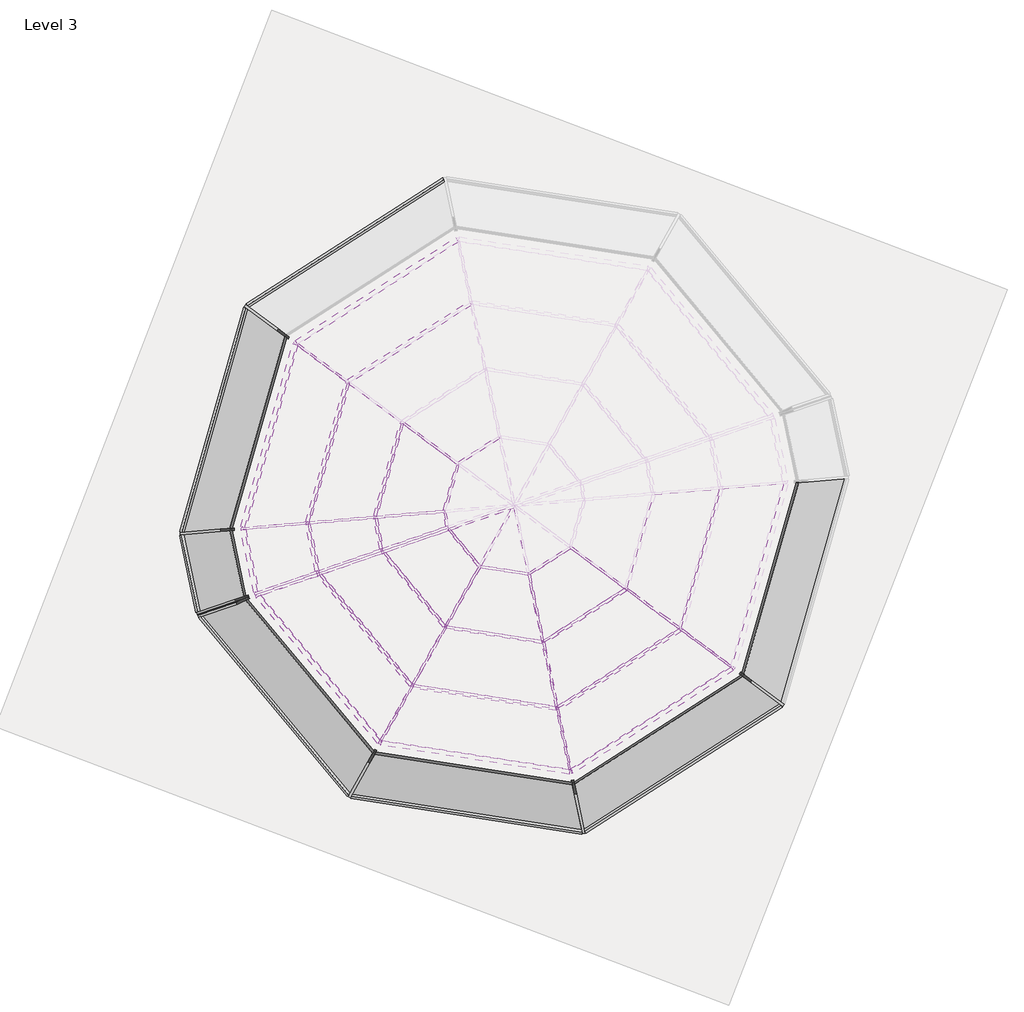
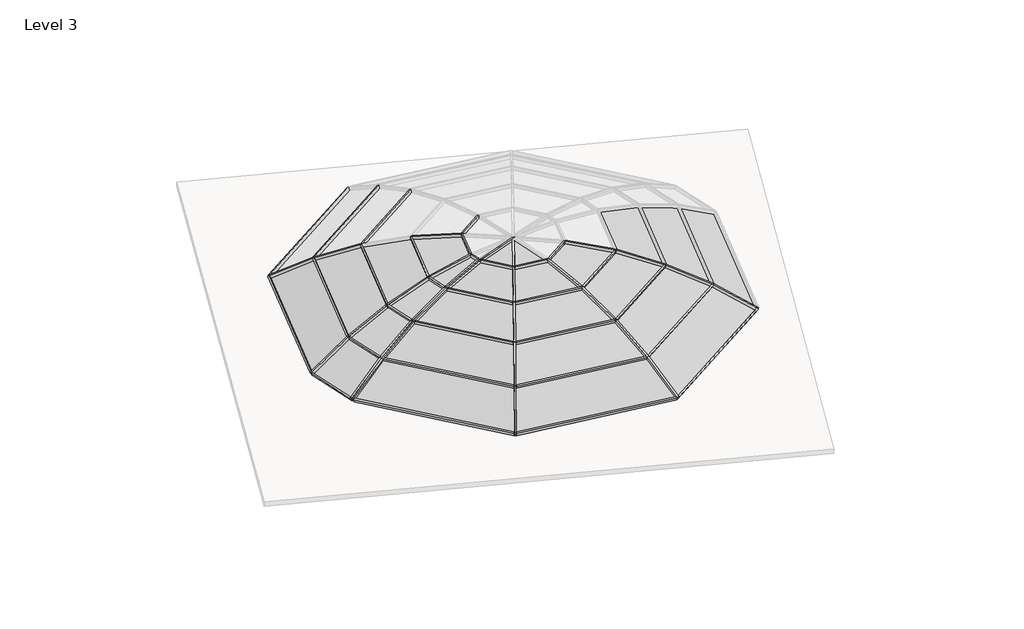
# One storey, part 1 of 2: 57 members, 25 plates.
"""IFC4 building model written with IfcOpenShell, lengths in millimetres."""

from ifc_helpers import new_model, si_unit, origin, place, context, project, spatial, transform, mapped, element, save
from components import rectangular_mullion_50_x_150mm_fa7cbd31, rectangular_mullion_50_x_150mm_524ad4e4, rectangular_mullion_50_x_150mm_5546df2b, rectangular_mullion_50_x_150mm_b59a5eb5, rectangular_mullion_50_x_150mm_e05598f6, rectangular_mullion_50_x_150mm_a9043509, rectangular_mullion_50_x_150mm_2f4e9f07, rectangular_mullion_50_x_150mm_9374ec4e, rectangular_mullion_50_x_150mm_1d4ffcc8, rectangular_mullion_50_x_150mm_7729aa8c, rectangular_mullion_50_x_150mm_591d99be, rectangular_mullion_50_x_150mm_0f1075ed, rectangular_mullion_50_x_150mm_c27df651, rectangular_mullion_50_x_150mm_b8fa2365, rectangular_mullion_50_x_150mm_1a41200d, rectangular_mullion_50_x_150mm_90fb33a8, rectangular_mullion_50_x_150mm_7cf9c824, rectangular_mullion_50_x_150mm_acd3cb19, rectangular_mullion_50_x_150mm_fa5f5fe4, rectangular_mullion_50_x_150mm_29780cc7, rectangular_mullion_50_x_150mm_fc893f09, rectangular_mullion_50_x_150mm_32bfd31b, rectangular_mullion_50_x_150mm_eddbecf3, rectangular_mullion_50_x_150mm_9946c6b2, rectangular_mullion_50_x_150mm_2f072838, rectangular_mullion_50_x_150mm_7f1d5474, rectangular_mullion_50_x_150mm_eba0d472, system_panel_glazed_d30a026a, system_panel_glazed_d2b78630, system_panel_glazed_ac238529, system_panel_glazed_37e80246, system_panel_glazed_b58a9e73, system_panel_glazed_1f3aabbd, system_panel_glazed_1b0430f5, system_panel_glazed_21f1f6a8, system_panel_glazed_6bfca4de, system_panel_glazed_ad1a7a07, system_panel_glazed_1b021a4a, system_panel_glazed_64c42520, system_panel_glazed_b4e5deec, system_panel_glazed_fcd4964b

model = new_model("IFC4")

# Units and contexts
model_context = context("Model", 3, world=origin())
ifc_project = project(units=[si_unit("LENGTHUNIT", "METRE", prefix="MILLI")], contexts=[model_context])

# Site, building, storey
site = spatial("IfcSite", under=ifc_project)
building = spatial("IfcBuilding", under=site)
storey = spatial("IfcBuildingStorey", under=building, Name="Level 3", Elevation=8400.0)

# Members
placement = place(None, origin())
rectangular_mullion_50_x_150mm_shape = rectangular_mullion_50_x_150mm_fa7cbd31(model_context)
element("IfcMember", 1, ObjectType="Rectangular Mullion : 50 x 150mm", at=placement, inside=storey, context=model_context, shape_type="MappedRepresentation", body=[
    mapped(rectangular_mullion_50_x_150mm_shape, transform((466199.4216626, -16734.4782175, 10977.2696344), x_axis=(-0.766484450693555, -0.6381016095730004, -0.07299262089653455), y_axis=(0.05609734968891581, 0.04670128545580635, -0.9973324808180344), z_axis=(0.6398083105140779, -0.7685345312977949, 0.0))),
])
rectangular_mullion_50_x_150mm_2_shape = rectangular_mullion_50_x_150mm_524ad4e4(model_context)
element("IfcMember", 2, ObjectType="Rectangular Mullion : 50 x 150mm", at=placement, inside=storey, context=model_context, shape_type="MappedRepresentation", body=[
    mapped(rectangular_mullion_50_x_150mm_2_shape, transform((467239.7215398, -16911.8241895, 10977.2696344), x_axis=(-0.15216599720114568, -0.985655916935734, -0.07299262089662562), y_axis=(0.011136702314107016, 0.07213803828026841, -0.9973324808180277), z_axis=(0.9882922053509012, -0.15257298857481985, 0.0))),
])
element("IfcMember", 3, ObjectType="Rectangular Mullion : 50 x 150mm", at=placement, inside=storey, context=model_context, shape_type="MappedRepresentation", body=[
    mapped(rectangular_mullion_50_x_150mm_2_shape, transform((468136.8932115, -16356.1638437, 10977.2696344), x_axis=(0.5383647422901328, -0.8395448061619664, -0.07299262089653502), y_axis=(-0.0394017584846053, 0.06144448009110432, -0.9973324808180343), z_axis=(0.8417902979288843, 0.5398046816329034, 0.0))),
])
element("IfcMember", 4, ObjectType="Rectangular Mullion : 50 x 150mm", at=placement, inside=storey, context=model_context, shape_type="MappedRepresentation", body=[
    mapped(rectangular_mullion_50_x_150mm_2_shape, transform((465771.0082631, -14540.4331851, 10977.2696344), x_axis=(-0.5383647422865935, 0.8395448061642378, -0.07299262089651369), y_axis=(0.03940175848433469, -0.06144448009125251, -0.9973324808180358), z_axis=(-0.8417902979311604, -0.5398046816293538, 0.0))),
])
element("IfcMember", 5, ObjectType="Rectangular Mullion : 50 x 150mm", at=placement, inside=storey, context=model_context, shape_type="MappedRepresentation", body=[
    mapped(rectangular_mullion_50_x_150mm_2_shape, transform((465466.3129122, -15550.7975607, 10977.2696344), x_axis=(-0.9592556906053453, 0.27294797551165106, -0.07299262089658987), y_axis=(0.07020586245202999, -0.01997647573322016, -0.9973324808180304), z_axis=(-0.2736780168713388, -0.961821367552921, 0.0))),
])
rectangular_mullion_50_x_150mm_3_shape = rectangular_mullion_50_x_150mm_5546df2b(model_context)
element("IfcMember", 6, ObjectType="Rectangular Mullion : 50 x 150mm", at=placement, inside=storey, context=model_context, shape_type="MappedRepresentation", body=[
    mapped(rectangular_mullion_50_x_150mm_3_shape, transform((465525.9488636, -15889.0220407, 10977.2696344), x_axis=(-0.9753948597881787, -0.2063862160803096, -0.0775215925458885), y_axis=(0.07584239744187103, 0.016047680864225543, -0.9969906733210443), z_axis=(0.20700917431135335, -0.978339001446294, 0.0))),
])
rectangular_mullion_50_x_150mm_4_shape = rectangular_mullion_50_x_150mm_b59a5eb5(model_context)
element("IfcMember", 7, ObjectType="Rectangular Mullion : 50 x 150mm", at=placement, inside=storey, context=model_context, shape_type="MappedRepresentation", body=[
    mapped(rectangular_mullion_50_x_150mm_4_shape, transform((465468.1939486, -18026.9573175, 10765.6005375), x_axis=(-0.754448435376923, -0.6280815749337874, -0.19058093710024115), y_axis=(0.1464680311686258, 0.12193526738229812, -0.981671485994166), z_axis=(0.639808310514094, -0.7685345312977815, 0.0))),
])
rectangular_mullion_50_x_150mm_5_shape = rectangular_mullion_50_x_150mm_e05598f6(model_context)
element("IfcMember", 8, ObjectType="Rectangular Mullion : 50 x 150mm", at=placement, inside=storey, context=model_context, shape_type="MappedRepresentation", body=[
    mapped(rectangular_mullion_50_x_150mm_5_shape, transform((467547.1281558, -18364.6481176, 10765.6005375), x_axis=(-0.14977655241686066, -0.9701782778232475, -0.19058093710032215), y_axis=(0.029077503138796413, 0.18834965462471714, -0.9816714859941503), z_axis=(0.9882922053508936, -0.15257298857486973, 0.0))),
])
element("IfcMember", 9, ObjectType="Rectangular Mullion : 50 x 150mm", at=placement, inside=storey, context=model_context, shape_type="MappedRepresentation", body=[
    mapped(rectangular_mullion_50_x_150mm_5_shape, transform((469328.9696623, -17241.6862481, 10765.6005375), x_axis=(0.5299108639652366, -0.8263615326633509, -0.19058093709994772), y_axis=(-0.10287648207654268, 0.16042918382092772, -0.9816714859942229), z_axis=(0.8417902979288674, 0.5398046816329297, 0.0))),
])
element("IfcMember", 10, ObjectType="Rectangular Mullion : 50 x 150mm", at=placement, inside=storey, context=model_context, shape_type="MappedRepresentation", body=[
    mapped(rectangular_mullion_50_x_150mm_5_shape, transform((463986.6176962, -15676.0902636, 10765.6005375), x_axis=(-0.9441926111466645, 0.2686619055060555, -0.19058093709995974), y_axis=(0.1833048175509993, -0.052157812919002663, -0.9816714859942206), z_axis=(-0.27367801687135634, -0.961821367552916, 0.0))),
])
rectangular_mullion_50_x_150mm_6_shape = rectangular_mullion_50_x_150mm_a9043509(model_context)
element("IfcMember", 11, ObjectType="Rectangular Mullion : 50 x 150mm", at=placement, inside=storey, context=model_context, shape_type="MappedRepresentation", body=[
    mapped(rectangular_mullion_50_x_150mm_6_shape, transform((464122.3219622, -16373.8186115, 10765.6005375), x_axis=(-0.9582144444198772, -0.20275096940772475, -0.20178484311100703), y_axis=(0.1974139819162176, 0.04177131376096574, -0.9794298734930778), z_axis=(0.20700917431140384, -0.9783390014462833, 0.0))),
])
rectangular_mullion_50_x_150mm_7_shape = rectangular_mullion_50_x_150mm_2f4e9f07(model_context)
element("IfcMember", 12, ObjectType="Rectangular Mullion : 50 x 150mm", at=placement, inside=storey, context=model_context, shape_type="MappedRepresentation", body=[
    mapped(rectangular_mullion_50_x_150mm_7_shape, transform((464755.9453803, -19285.8898922, 10368.3717003), x_axis=(-0.731639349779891, -0.6090929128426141, -0.3061203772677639), y_axis=(0.23526408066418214, 0.19585836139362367, -0.9519928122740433), z_axis=(0.6398083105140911, -0.768534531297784, 0.0))),
])
rectangular_mullion_50_x_150mm_8_shape = rectangular_mullion_50_x_150mm_9374ec4e(model_context)
element("IfcMember", 13, ObjectType="Rectangular Mullion : 50 x 150mm", at=placement, inside=storey, context=model_context, shape_type="MappedRepresentation", body=[
    mapped(rectangular_mullion_50_x_150mm_8_shape, transform((467846.5559784, -19779.7637418, 10368.3717003), x_axis=(-0.14524838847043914, -0.9408470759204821, -0.3061203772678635), y_axis=(0.046705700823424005, 0.30253638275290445, -0.9519928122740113), z_axis=(0.9882922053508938, -0.15257298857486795, 0.0))),
])
element("IfcMember", 14, ObjectType="Rectangular Mullion : 50 x 150mm", at=placement, inside=storey, context=model_context, shape_type="MappedRepresentation", body=[
    mapped(rectangular_mullion_50_x_150mm_8_shape, transform((470490.1055566, -18104.2247609, 10368.3717003), x_axis=(0.5138901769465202, -0.8013783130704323, -0.30612037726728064), y_axis=(-0.16524521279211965, 0.2576891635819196, -0.9519928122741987), z_axis=(0.8417902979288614, 0.5398046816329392, 0.0))),
])
element("IfcMember", 15, ObjectType="Rectangular Mullion : 50 x 150mm", at=placement, inside=storey, context=model_context, shape_type="MappedRepresentation", body=[
    mapped(rectangular_mullion_50_x_150mm_8_shape, transform((463417.7959181, -12792.3722679, 10368.3717003), x_axis=(-0.5138901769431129, 0.8013783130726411, -0.3061203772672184), y_axis=(0.16524521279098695, -0.25768916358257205, -0.9519928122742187), z_axis=(-0.8417902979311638, -0.5398046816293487, 0.0))),
])
element("IfcMember", 16, ObjectType="Rectangular Mullion : 50 x 150mm", at=placement, inside=storey, context=model_context, shape_type="MappedRepresentation", body=[
    mapped(rectangular_mullion_50_x_150mm_8_shape, transform((462545.3282332, -15798.130972, 10368.3717003), x_axis=(-0.9156470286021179, 0.26053950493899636, -0.30612037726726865), y_axis=(0.2944331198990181, -0.08377841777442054, -0.9519928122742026), z_axis=(-0.27367801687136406, -0.9618213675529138, 0.0))),
])
rectangular_mullion_50_x_150mm_9_shape = rectangular_mullion_50_x_150mm_1d4ffcc8(model_context)
element("IfcMember", 17, ObjectType="Rectangular Mullion : 50 x 150mm", at=placement, inside=storey, context=model_context, shape_type="MappedRepresentation", body=[
    mapped(rectangular_mullion_50_x_150mm_9_shape, transform((462755.126447, -16846.032201, 10368.3717003), x_axis=(-0.9259277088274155, -0.19591933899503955, -0.32291406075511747), y_axis=(0.31591941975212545, 0.06684617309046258, -0.9464282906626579), z_axis=(0.2070091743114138, -0.9783390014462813, 0.0))),
])
rectangular_mullion_50_x_150mm_10_shape = rectangular_mullion_50_x_150mm_7729aa8c(model_context)
element("IfcMember", 18, ObjectType="Rectangular Mullion : 50 x 150mm", at=placement, inside=storey, context=model_context, shape_type="MappedRepresentation", body=[
    mapped(rectangular_mullion_50_x_150mm_10_shape, transform((464074.0459753, -20491.1789047, 9791.9243064), x_axis=(-0.698047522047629, -0.581127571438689, -0.4183543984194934), y_axis=(0.3215198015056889, 0.26766662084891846, -0.9082838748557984), z_axis=(0.6398083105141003, -0.7685345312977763, 0.0))),
])
rectangular_mullion_50_x_150mm_11_shape = rectangular_mullion_50_x_150mm_591d99be(model_context)
element("IfcMember", 19, ObjectType="Rectangular Mullion : 50 x 150mm", at=placement, inside=storey, context=model_context, shape_type="MappedRepresentation", body=[
    mapped(rectangular_mullion_50_x_150mm_11_shape, transform((468133.2250755, -21134.5807888, 9791.9243064), x_axis=(-0.13857958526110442, -0.8976498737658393, -0.41835439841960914), y_axis=(0.06382958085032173, 0.4134563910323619, -0.9082838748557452), z_axis=(0.9882922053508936, -0.1525729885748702, 0.0))),
])
element("IfcMember", 20, ObjectType="Rectangular Mullion : 50 x 150mm", at=placement, inside=storey, context=model_context, shape_type="MappedRepresentation", body=[
    mapped(rectangular_mullion_50_x_150mm_11_shape, transform((471601.7650397, -18930.0102026, 9791.9243064), x_axis=(0.4902958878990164, -0.7645845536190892, -0.41835439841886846), y_axis=(-0.22582966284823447, 0.35216667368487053, -0.9082838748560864), z_axis=(0.8417902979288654, 0.5398046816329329, 0.0))),
])
element("IfcMember", 21, ObjectType="Rectangular Mullion : 50 x 150mm", at=placement, inside=storey, context=model_context, shape_type="MappedRepresentation", body=[
    mapped(rectangular_mullion_50_x_150mm_11_shape, transform((462306.136435, -11966.5868262, 9791.9243064), x_axis=(-0.49029588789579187, 0.7645845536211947, -0.41835439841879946), y_axis=(0.2258296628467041, -0.3521666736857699, -0.9082838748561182), z_axis=(-0.8417902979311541, -0.5398046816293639, 0.0))),
])
element("IfcMember", 22, ObjectType="Rectangular Mullion : 50 x 150mm", at=placement, inside=storey, context=model_context, shape_type="MappedRepresentation", body=[
    mapped(rectangular_mullion_50_x_150mm_11_shape, transform((461165.4526239, -15914.9714827, 9791.9243064), x_axis=(-0.8736068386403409, 0.24857732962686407, -0.41835439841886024), y_axis=(0.4023821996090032, -0.1144944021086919, -0.9082838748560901), z_axis=(-0.2736780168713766, -0.9618213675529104, 0.0))),
])
rectangular_mullion_50_x_150mm_12_shape = rectangular_mullion_50_x_150mm_0f1075ed(model_context)
element("IfcMember", 23, ObjectType="Rectangular Mullion : 50 x 150mm", at=placement, inside=storey, context=model_context, shape_type="MappedRepresentation", body=[
    mapped(rectangular_mullion_50_x_150mm_12_shape, transform((461446.1876163, -17298.1246024, 9791.9243064), x_axis=(-0.8789890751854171, -0.1859874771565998, -0.43907500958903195), y_axis=(0.4295642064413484, 0.0908925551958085, -0.8984504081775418), z_axis=(0.2070091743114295, -0.9783390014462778, 0.0))),
])
rectangular_mullion_50_x_150mm_13_shape = rectangular_mullion_50_x_150mm_c27df651(model_context)
element("IfcMember", 24, ObjectType="Rectangular Mullion : 50 x 150mm", at=placement, inside=storey, context=model_context, shape_type="MappedRepresentation", body=[
    mapped(rectangular_mullion_50_x_150mm_13_shape, transform((463433.3812711, -21623.5836597, 9045.4605044), x_axis=(-0.6537057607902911, -0.5442128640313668, -0.5258337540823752), y_axis=(0.4041213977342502, 0.3364328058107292, -0.8505873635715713), z_axis=(0.6398083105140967, -0.7685345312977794, 0.0))),
])
rectangular_mullion_50_x_150mm_14_shape = rectangular_mullion_50_x_150mm_b8fa2365(model_context)
element("IfcMember", 25, ObjectType="Rectangular Mullion : 50 x 150mm", at=placement, inside=storey, context=model_context, shape_type="MappedRepresentation", body=[
    mapped(rectangular_mullion_50_x_150mm_14_shape, transform((468402.5591898, -22407.4715646, 9045.4605044), x_axis=(-0.12977665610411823, -0.8406288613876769, -0.5258337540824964), y_axis=(0.08022802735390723, 0.5196774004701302, -0.8505873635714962), z_axis=(0.9882922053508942, -0.1525729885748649, 0.0))),
])
element("IfcMember", 26, ObjectType="Rectangular Mullion : 50 x 150mm", at=placement, inside=storey, context=model_context, shape_type="MappedRepresentation", body=[
    mapped(rectangular_mullion_50_x_150mm_14_shape, transform((472646.2020764, -19705.8601034, 9045.4605044), x_axis=(0.45915104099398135, -0.7160161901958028, -0.5258337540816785), y_axis=(-0.2838475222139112, 0.4426417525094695, -0.8505873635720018), z_axis=(0.8417902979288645, 0.5398046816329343, 0.0))),
])
element("IfcMember", 27, ObjectType="Rectangular Mullion : 50 x 150mm", at=placement, inside=storey, context=model_context, shape_type="MappedRepresentation", body=[
    mapped(rectangular_mullion_50_x_150mm_14_shape, transform((461261.6993982, -11190.7369254, 9045.4605044), x_axis=(-0.45915104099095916, 0.7160161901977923, -0.5258337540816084), y_axis=(0.28384752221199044, -0.44264175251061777, -0.8505873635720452), z_axis=(-0.8417902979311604, -0.5398046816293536, 0.0))),
])
element("IfcMember", 28, ObjectType="Rectangular Mullion : 50 x 150mm", at=placement, inside=storey, context=model_context, shape_type="MappedRepresentation", body=[
    mapped(rectangular_mullion_50_x_150mm_14_shape, transform((459869.0185859, -16024.7466059, 9045.4605044), x_axis=(-0.818113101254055, 0.23278706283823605, -0.5258337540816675), y_axis=(0.5057581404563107, -0.14390913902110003, -0.8505873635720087), z_axis=(-0.27367801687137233, -0.9618213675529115, 0.0))),
])
rectangular_mullion_50_x_150mm_15_shape = rectangular_mullion_50_x_150mm_1a41200d(model_context)
element("IfcMember", 29, ObjectType="Rectangular Mullion : 50 x 150mm", at=placement, inside=storey, context=model_context, shape_type="MappedRepresentation", body=[
    mapped(rectangular_mullion_50_x_150mm_15_shape, transform((460216.4007845, -17722.8788147, 9045.4605044), x_axis=(-0.818066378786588, -0.17309669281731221, -0.5484568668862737), y_axis=(0.5365767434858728, 0.11353560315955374, -0.8361788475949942), z_axis=(0.20700917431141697, -0.9783390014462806, 0.0))),
])
rectangular_mullion_50_x_150mm_16_shape = rectangular_mullion_50_x_150mm_90fb33a8(model_context)
element("IfcMember", 30, ObjectType="Rectangular Mullion : 50 x 150mm", at=placement, inside=storey, context=model_context, shape_type="MappedRepresentation", body=[
    mapped(rectangular_mullion_50_x_150mm_16_shape, transform((465536.2993223, -15937.9389907, 10977.2696344), x_axis=(-0.3265418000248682, 0.9451653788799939, 0.005732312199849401), y_axis=(0.012552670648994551, 0.010400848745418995, -0.9998671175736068), z_axis=(-0.9450994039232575, -0.3264264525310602, -0.015260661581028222))),
])
rectangular_mullion_50_x_150mm_17_shape = rectangular_mullion_50_x_150mm_7cf9c824(model_context)
element("IfcMember", 31, ObjectType="Rectangular Mullion : 50 x 150mm", at=placement, inside=storey, context=model_context, shape_type="MappedRepresentation", body=[
    mapped(rectangular_mullion_50_x_150mm_17_shape, transform((464132.6724209, -16422.7355615, 10765.6005375), x_axis=(-0.33311095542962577, 0.9414093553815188, 0.05277799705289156), y_axis=(0.11578711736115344, 0.09639327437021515, -0.9885856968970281), z_axis=(-0.9357512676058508, -0.32319771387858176, -0.1411127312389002))),
])
rectangular_mullion_50_x_150mm_18_shape = rectangular_mullion_50_x_150mm_acd3cb19(model_context)
element("IfcMember", 32, ObjectType="Rectangular Mullion : 50 x 150mm", at=placement, inside=storey, context=model_context, shape_type="MappedRepresentation", body=[
    mapped(rectangular_mullion_50_x_150mm_18_shape, transform((462765.4769057, -16894.949151, 10368.3717003), x_axis=(-0.3497916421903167, 0.9318822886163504, 0.09613119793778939), y_axis=(0.21651737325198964, 0.18025164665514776, -0.9594944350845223), z_axis=(-0.9114636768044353, -0.314809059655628, -0.26481922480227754))),
])
rectangular_mullion_50_x_150mm_19_shape = rectangular_mullion_50_x_150mm_fa5f5fe4(model_context)
element("IfcMember", 33, ObjectType="Rectangular Mullion : 50 x 150mm", at=placement, inside=storey, context=model_context, shape_type="MappedRepresentation", body=[
    mapped(rectangular_mullion_50_x_150mm_19_shape, transform((461456.538075, -17347.0415524, 9791.9243064), x_axis=(-0.3753307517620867, 0.9173237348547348, 0.13283069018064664), y_axis=(0.3124914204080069, 0.2601504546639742, -0.9136032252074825), z_axis=(-0.8726258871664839, -0.30139493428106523, -0.384298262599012))),
])
rectangular_mullion_50_x_150mm_20_shape = rectangular_mullion_50_x_150mm_29780cc7(model_context)
element("IfcMember", 34, ObjectType="Rectangular Mullion : 50 x 150mm", at=placement, inside=storey, context=model_context, shape_type="MappedRepresentation", body=[
    mapped(rectangular_mullion_50_x_150mm_20_shape, transform((460226.7512433, -17771.7957647, 9045.4605044), x_axis=(-0.4078582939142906, 0.8988303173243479, 0.1604857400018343), y_axis=(0.40185153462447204, 0.3345431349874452, -0.8524061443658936), z_axis=(-0.8198578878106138, -0.2831694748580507, -0.497642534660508))),
])
rectangular_mullion_50_x_150mm_21_shape = rectangular_mullion_50_x_150mm_fc893f09(model_context)
element("IfcMember", 35, ObjectType="Rectangular Mullion : 50 x 150mm", at=placement, inside=storey, context=model_context, shape_type="MappedRepresentation", body=[
    mapped(rectangular_mullion_50_x_150mm_21_shape, transform((465536.2993223, -15937.9389907, 10977.2696344), x_axis=(0.3240675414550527, -0.9458736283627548, 0.017415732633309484), y_axis=(0.1391035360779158, 0.02943326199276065, -0.9898403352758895), z_axis=(0.9357512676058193, 0.3231977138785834, 0.14111273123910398))),
])
rectangular_mullion_50_x_150mm_22_shape = rectangular_mullion_50_x_150mm_32bfd31b(model_context)
element("IfcMember", 36, ObjectType="Rectangular Mullion : 50 x 150mm", at=placement, inside=storey, context=model_context, shape_type="MappedRepresentation", body=[
    mapped(rectangular_mullion_50_x_150mm_22_shape, transform((464132.6724209, -16422.7355615, 10765.6005375), x_axis=(0.31802625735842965, -0.9475476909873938, 0.03182252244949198), y_axis=(0.26094686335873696, 0.055214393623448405, -0.9637728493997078), z_axis=(0.9114636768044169, 0.3148090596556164, 0.2648192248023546))),
])
rectangular_mullion_50_x_150mm_23_shape = rectangular_mullion_50_x_150mm_eddbecf3(model_context)
element("IfcMember", 37, ObjectType="Rectangular Mullion : 50 x 150mm", at=placement, inside=storey, context=model_context, shape_type="MappedRepresentation", body=[
    mapped(rectangular_mullion_50_x_150mm_23_shape, transform((462765.4769057, -16894.949151, 10368.3717003), x_axis=(0.3087052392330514, -0.9501308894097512, 0.04418561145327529), y_axis=(0.37845096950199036, 0.08007737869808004, -0.9221510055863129), z_axis=(0.8726258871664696, 0.30139493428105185, 0.38429826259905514))),
])
rectangular_mullion_50_x_150mm_24_shape = rectangular_mullion_50_x_150mm_9946c6b2(model_context)
element("IfcMember", 38, ObjectType="Rectangular Mullion : 50 x 150mm", at=placement, inside=storey, context=model_context, shape_type="MappedRepresentation", body=[
    mapped(rectangular_mullion_50_x_150mm_24_shape, transform((461456.538075, -17347.0415524, 9791.9243064), x_axis=(0.29670793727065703, -0.9534563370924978, 0.05371604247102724), y_axis=(0.48969117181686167, 0.10361496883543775, -0.8657173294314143), z_axis=(0.8198578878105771, 0.2831694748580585, 0.4976425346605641))),
])
rectangular_mullion_50_x_150mm_25_shape = rectangular_mullion_50_x_150mm_2f072838(model_context)
element("IfcMember", 39, ObjectType="Rectangular Mullion : 50 x 150mm", at=placement, inside=storey, context=model_context, shape_type="MappedRepresentation", body=[
    mapped(rectangular_mullion_50_x_150mm_25_shape, transform((466215.4168703, -16753.6915808, 10977.2696344), x_axis=(0.8703619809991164, -0.492412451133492, 0.0), y_axis=(0.06948566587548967, 0.12281915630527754, -0.9899935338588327), z_axis=(0.4874851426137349, 0.8616527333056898, 0.14111273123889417))),
])
element("IfcMember", 40, ObjectType="Rectangular Mullion : 50 x 150mm", at=placement, inside=storey, context=model_context, shape_type="MappedRepresentation", body=[
    mapped(rectangular_mullion_50_x_150mm_25_shape, transform((467264.4288449, -16915.6385142, 10977.2696344), x_axis=(0.9783390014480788, 0.20700917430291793, 0.0), y_axis=(-0.029211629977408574, 0.13805608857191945, -0.9899935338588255), z_axis=(-0.20493774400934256, 0.9685492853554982, 0.1411127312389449))),
])
element("IfcMember", 41, ObjectType="Rectangular Mullion : 50 x 150mm", at=placement, inside=storey, context=model_context, shape_type="MappedRepresentation", body=[
    mapped(rectangular_mullion_50_x_150mm_25_shape, transform((468157.937969, -16342.6687266, 10977.2696344), x_axis=(0.5963152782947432, 0.8027503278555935, 0.0), y_axis=(-0.1132782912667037, 0.0841476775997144, -0.9899935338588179), z_axis=(-0.7947176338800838, 0.5903482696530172, 0.14111273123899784))),
])
element("IfcMember", 42, ObjectType="Rectangular Mullion : 50 x 150mm", at=placement, inside=storey, context=model_context, shape_type="MappedRepresentation", body=[
    mapped(rectangular_mullion_50_x_150mm_25_shape, transform((465749.9635057, -14553.9283021, 10977.2696344), x_axis=(-0.5963152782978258, -0.8027503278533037, 0.0), y_axis=(0.11327829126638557, -0.08414767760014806, -0.9899935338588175), z_axis=(0.794717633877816, -0.5903482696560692, 0.14111273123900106))),
])
element("IfcMember", 43, ObjectType="Rectangular Mullion : 50 x 150mm", at=placement, inside=storey, context=model_context, shape_type="MappedRepresentation", body=[
    mapped(rectangular_mullion_50_x_150mm_25_shape, transform((465459.4709617, -15574.8430949, 10977.2696344), x_axis=(0.08437274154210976, -0.9964342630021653, 0.0), y_axis=(0.14060956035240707, 0.011906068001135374, -0.9899935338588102), z_axis=(0.9864634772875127, 0.08352846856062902, 0.1411127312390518))),
])
rectangular_mullion_50_x_150mm_26_shape = rectangular_mullion_50_x_150mm_7f1d5474(model_context)
element("IfcMember", 44, ObjectType="Rectangular Mullion : 50 x 150mm", at=placement, inside=storey, context=model_context, shape_type="MappedRepresentation", body=[
    mapped(rectangular_mullion_50_x_150mm_26_shape, transform((465484.1891564, -18046.1706807, 10765.6005375), x_axis=(0.8703619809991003, -0.49241245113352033, 0.0), y_axis=(0.13040028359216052, 0.23048858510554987, -0.9642980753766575), z_axis=(0.47483237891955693, 0.839288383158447, 0.2648192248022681))),
])
element("IfcMember", 45, ObjectType="Rectangular Mullion : 50 x 150mm", at=placement, inside=storey, context=model_context, shape_type="MappedRepresentation", body=[
    mapped(rectangular_mullion_50_x_150mm_26_shape, transform((464771.940588, -19305.1032555, 10368.3717003), x_axis=(0.8703619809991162, -0.4924124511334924, 0.0), y_axis=(0.1892332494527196, 0.3344785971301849, -0.9232089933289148), z_axis=(0.45459960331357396, 0.8035260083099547, 0.38429826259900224))),
])
element("IfcMember", 46, ObjectType="Rectangular Mullion : 50 x 150mm", at=placement, inside=storey, context=model_context, shape_type="MappedRepresentation", body=[
    mapped(rectangular_mullion_50_x_150mm_26_shape, transform((467571.835461, -18368.4624423, 10765.6005375), x_axis=(0.9783390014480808, 0.2070091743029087, 0.0), y_axis=(-0.05482000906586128, 0.2590829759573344, -0.9642980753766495), z_axis=(-0.19961854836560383, 0.9434104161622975, 0.26481922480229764))),
])
element("IfcMember", 47, ObjectType="Rectangular Mullion : 50 x 150mm", at=placement, inside=storey, context=model_context, shape_type="MappedRepresentation", body=[
    mapped(rectangular_mullion_50_x_150mm_26_shape, transform((467871.2632835, -19783.5780665, 10368.3717003), x_axis=(0.9783390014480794, 0.2070091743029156, 0.0), y_axis=(-0.0795532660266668, 0.3759739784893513, -0.9232089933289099), z_axis=(-0.1911127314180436, 0.9032113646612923, 0.38429826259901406))),
])
element("IfcMember", 48, ObjectType="Rectangular Mullion : 50 x 150mm", at=placement, inside=storey, context=model_context, shape_type="MappedRepresentation", body=[
    mapped(rectangular_mullion_50_x_150mm_26_shape, transform((469350.0144198, -17228.1911311, 10765.6005375), x_axis=(0.5963152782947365, 0.8027503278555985, 0.0), y_axis=(-0.21258371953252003, 0.15791574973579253, -0.9642980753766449), z_axis=(-0.7740905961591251, 0.5750256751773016, 0.2648192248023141))),
])
element("IfcMember", 49, ObjectType="Rectangular Mullion : 50 x 150mm", at=placement, inside=storey, context=model_context, shape_type="MappedRepresentation", body=[
    mapped(rectangular_mullion_50_x_150mm_26_shape, transform((470511.150314, -18090.7296439, 10368.3717003), x_axis=(0.5963152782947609, 0.8027503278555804, 0.0), y_axis=(-0.3084955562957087, 0.22916292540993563, -0.9232089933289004), z_axis=(-0.7411063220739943, 0.5505236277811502, 0.38429826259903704))),
])
element("IfcMember", 50, ObjectType="Rectangular Mullion : 50 x 150mm", at=placement, inside=storey, context=model_context, shape_type="MappedRepresentation", body=[
    mapped(rectangular_mullion_50_x_150mm_26_shape, transform((463396.7511606, -12805.8673849, 10368.3717003), x_axis=(-0.5963152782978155, -0.8027503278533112, 0.0), y_axis=(0.30849555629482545, -0.22916292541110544, -0.9232089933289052), z_axis=(0.7411063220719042, -0.5505236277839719, 0.3842982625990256))),
])
element("IfcMember", 51, ObjectType="Rectangular Mullion : 50 x 150mm", at=placement, inside=storey, context=model_context, shape_type="MappedRepresentation", body=[
    mapped(rectangular_mullion_50_x_150mm_26_shape, transform((463979.7757458, -15700.1357978, 10765.6005375), x_axis=(0.08437274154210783, -0.9964342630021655, 0.0), y_axis=(0.26387494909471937, 0.022343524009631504, -0.9642980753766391), z_axis=(0.960859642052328, 0.08136047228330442, 0.2648192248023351))),
])
element("IfcMember", 52, ObjectType="Rectangular Mullion : 50 x 150mm", at=placement, inside=storey, context=model_context, shape_type="MappedRepresentation", body=[
    mapped(rectangular_mullion_50_x_150mm_26_shape, transform((462538.4862827, -15822.1765062, 10368.3717003), x_axis=(0.08437274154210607, -0.9964342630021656, 0.0), y_axis=(0.38292795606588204, 0.03242429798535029, -0.9232089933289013), z_axis=(0.919917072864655, 0.07789367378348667, 0.384298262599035))),
])
rectangular_mullion_50_x_150mm_27_shape = rectangular_mullion_50_x_150mm_eba0d472(model_context)
element("IfcMember", 53, ObjectType="Rectangular Mullion : 50 x 150mm", at=placement, inside=storey, context=model_context, shape_type="MappedRepresentation", body=[
    mapped(rectangular_mullion_50_x_150mm_27_shape, transform((464090.0411831, -20510.3922679, 9791.9243064), x_axis=(0.8703619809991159, -0.49241245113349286, 0.0), y_axis=(0.24504538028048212, 0.43312914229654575, -0.8673822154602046), z_axis=(0.42710980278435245, 0.7549365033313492, 0.4976425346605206))),
])
element("IfcMember", 54, ObjectType="Rectangular Mullion : 50 x 150mm", at=placement, inside=storey, context=model_context, shape_type="MappedRepresentation", body=[
    mapped(rectangular_mullion_50_x_150mm_27_shape, transform((468157.9323806, -21138.3951135, 9791.9243064), x_axis=(0.9783390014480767, 0.20700917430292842, 0.0), y_axis=(-0.10301657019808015, 0.48686310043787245, -0.8673822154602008), z_axis=(-0.1795560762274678, 0.8485938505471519, 0.497642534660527))),
])
element("IfcMember", 55, ObjectType="Rectangular Mullion : 50 x 150mm", at=placement, inside=storey, context=model_context, shape_type="MappedRepresentation", body=[
    mapped(rectangular_mullion_50_x_150mm_27_shape, transform((471622.8097971, -18916.5150855, 9791.9243064), x_axis=(0.596315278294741, 0.8027503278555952, 0.0), y_axis=(-0.399482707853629, 0.2967518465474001, -0.8673822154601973), z_axis=(-0.6962913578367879, 0.5172332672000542, 0.49764253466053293))),
])
element("IfcMember", 56, ObjectType="Rectangular Mullion : 50 x 150mm", at=placement, inside=storey, context=model_context, shape_type="MappedRepresentation", body=[
    mapped(rectangular_mullion_50_x_150mm_27_shape, transform((462285.0916775, -11980.0819432, 9791.9243064), x_axis=(-0.5963152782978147, -0.8027503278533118, 0.0), y_axis=(0.3994827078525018, -0.296751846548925, -0.867382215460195), z_axis=(0.6962913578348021, -0.5172332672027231, 0.49764253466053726))),
])
element("IfcMember", 57, ObjectType="Rectangular Mullion : 50 x 150mm", at=placement, inside=storey, context=model_context, shape_type="MappedRepresentation", body=[
    mapped(rectangular_mullion_50_x_150mm_27_shape, transform((461158.6106734, -15939.0170169, 9791.9243064), x_axis=(0.0843727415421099, -0.9964342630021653, 0.0), y_axis=(0.4958680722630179, 0.04198746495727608, -0.8673822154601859), z_axis=(0.8642893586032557, 0.0731834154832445, 0.4976425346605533))),
])

# Plates
system_panel_glazed_shape = system_panel_glazed_d30a026a(model_context)
element("IfcPlate", 58, ObjectType="System Panel : Glazed", at=placement, inside=storey, context=model_context, shape_type="MappedRepresentation", body=[
    mapped(system_panel_glazed_shape, transform((466238.4110169, -15526.2882695, 10990.2807804), x_axis=(0.9999224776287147, -0.00012908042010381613, 0.012450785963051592), y_axis=(-0.012451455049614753, -0.010365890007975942, 0.9998687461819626), z_axis=(0.0, -0.9999462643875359, -0.01036669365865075))),
])
system_panel_glazed_2_shape = system_panel_glazed_d2b78630(model_context)
element("IfcPlate", 59, ObjectType="System Panel : Glazed", at=placement, inside=storey, context=model_context, shape_type="MappedRepresentation", body=[
    mapped(system_panel_glazed_2_shape, transform((466743.7366817, -15518.1105262, 10998.3623318), x_axis=(0.9999969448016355, -3.958018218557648e-05, 0.002471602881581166), y_axis=(-0.0024719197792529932, -0.016011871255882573, 0.9998687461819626), z_axis=(0.0, -0.999871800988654, -0.016011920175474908))),
])
system_panel_glazed_3_shape = system_panel_glazed_ac238529(model_context)
element("IfcPlate", 60, ObjectType="System Panel : Glazed", at=placement, inside=storey, context=model_context, shape_type="MappedRepresentation", body=[
    mapped(system_panel_glazed_3_shape, transform((465865.4027165, -16371.8845344, 10973.503144), x_axis=(0.6398083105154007, -0.7685345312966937, 0.0), y_axis=(-0.1157871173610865, -0.09639327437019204, 0.9885856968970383), z_axis=(-0.759762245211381, -0.6325053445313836, -0.15065961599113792))),
])
system_panel_glazed_4_shape = system_panel_glazed_37e80246(model_context)
element("IfcPlate", 61, ObjectType="System Panel : Glazed", at=placement, inside=storey, context=model_context, shape_type="MappedRepresentation", body=[
    mapped(system_panel_glazed_4_shape, transform((466736.1520708, -16859.090336, 10973.503144), x_axis=(0.9882922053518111, -0.15257298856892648, 0.0), y_axis=(-0.022986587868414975, -0.14889572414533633, 0.9885856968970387), z_axis=(-0.15083147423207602, -0.9770115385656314, -0.15065961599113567))),
])
element("IfcPlate", 62, ObjectType="System Panel : Glazed", at=placement, inside=storey, context=model_context, shape_type="MappedRepresentation", body=[
    mapped(system_panel_glazed_4_shape, transform((467724.5244866, -16649.9581666, 10973.503144), x_axis=(0.8417902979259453, 0.5398046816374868, 0.0), y_axis=(0.08132676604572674, -0.12682380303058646, 0.9885856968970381), z_axis=(0.533643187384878, -0.8321818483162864, -0.1506596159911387))),
])
element("IfcPlate", 63, ObjectType="System Panel : Glazed", at=placement, inside=storey, context=model_context, shape_type="MappedRepresentation", body=[
    mapped(system_panel_glazed_4_shape, transform((465580.9461625, -15057.6218442, 10973.503144), x_axis=(-0.27367801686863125, -0.9618213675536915, 0.0), y_axis=(-0.1449076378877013, 0.04123222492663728, 0.9885856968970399), z_axis=(-0.9508428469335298, 0.2705541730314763, -0.15065961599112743))),
])
system_panel_glazed_5_shape = system_panel_glazed_b58a9e73(model_context)
element("IfcPlate", 64, ObjectType="System Panel : Glazed", at=placement, inside=storey, context=model_context, shape_type="MappedRepresentation", body=[
    mapped(system_panel_glazed_5_shape, transform((465471.0679097, -15749.1916714, 10973.7150501), x_axis=(0.20700917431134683, -0.9783390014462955, 0.0), y_axis=(-0.1391035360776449, -0.029433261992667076, 0.9898403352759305), z_axis=(-0.9683994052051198, -0.20490603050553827, -0.14218336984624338))),
])
system_panel_glazed_6_shape = system_panel_glazed_1f3aabbd(model_context)
element("IfcPlate", 65, ObjectType="System Panel : Glazed", at=placement, inside=storey, context=model_context, shape_type="MappedRepresentation", body=[
    mapped(system_panel_glazed_6_shape, transform((464798.5039137, -17260.0204894, 10758.557348), x_axis=(0.6398083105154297, -0.7685345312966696, 0.0), y_axis=(-0.21651737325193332, -0.18025164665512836, 0.9594944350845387), z_axis=(-0.7374046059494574, -0.6138925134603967, -0.2817275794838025))),
])
system_panel_glazed_7_shape = system_panel_glazed_1b0430f5(model_context)
element("IfcPlate", 66, ObjectType="System Panel : Glazed", at=placement, inside=storey, context=model_context, shape_type="MappedRepresentation", body=[
    mapped(system_panel_glazed_7_shape, transform((466524.3524853, -18231.0230833, 10758.557348), x_axis=(0.9882922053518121, -0.1525729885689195, 0.0), y_axis=(-0.042984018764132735, -0.27842917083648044, 0.959494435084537), z_axis=(-0.1463929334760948, -0.9482608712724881, -0.28172757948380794))),
])
element("IfcPlate", 67, ObjectType="System Panel : Glazed", at=placement, inside=storey, context=model_context, shape_type="MappedRepresentation", body=[
    mapped(system_panel_glazed_7_shape, transform((468473.8734301, -17818.5191143, 10758.557348), x_axis=(0.8417902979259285, 0.5398046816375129, 0.0), y_axis=(0.15207786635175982, -0.2371555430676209, 0.9594944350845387), z_axis=(0.517939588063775, -0.8076931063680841, -0.2817275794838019))),
])
element("IfcPlate", 68, ObjectType="System Panel : Glazed", at=placement, inside=storey, context=model_context, shape_type="MappedRepresentation", body=[
    mapped(system_panel_glazed_7_shape, transform((469662.1416305, -16218.8909944, 10758.557348), x_axis=(0.2736780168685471, 0.9618213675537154, 0.0), y_axis=(0.2709716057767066, -0.0771026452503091, 0.9594944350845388), z_axis=(0.9228622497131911, -0.26259253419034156, -0.28172757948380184))),
])
element("IfcPlate", 69, ObjectType="System Panel : Glazed", at=placement, inside=storey, context=model_context, shape_type="MappedRepresentation", body=[
    mapped(system_panel_glazed_7_shape, transform((464245.7598441, -14677.7060344, 10758.557348), x_axis=(-0.27367801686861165, -0.9618213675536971, 0.0), y_axis=(-0.2709716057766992, 0.07710264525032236, 0.9594944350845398), z_axis=(-0.9228622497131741, 0.26259253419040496, -0.28172757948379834))),
])
system_panel_glazed_8_shape = system_panel_glazed_21f1f6a8(model_context)
element("IfcPlate", 70, ObjectType="System Panel : Glazed", at=placement, inside=storey, context=model_context, shape_type="MappedRepresentation", body=[
    mapped(system_panel_glazed_8_shape, transform((464030.0454388, -16054.1062084, 10758.932428), x_axis=(0.20700917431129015, -0.9783390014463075, 0.0), y_axis=(-0.2609468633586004, -0.05521439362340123, 0.9637728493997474), z_axis=(-0.9428965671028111, -0.19950982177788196, -0.266724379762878))),
])
system_panel_glazed_9_shape = system_panel_glazed_6bfca4de(model_context)
element("IfcPlate", 71, ObjectType="System Panel : Glazed", at=placement, inside=storey, context=model_context, shape_type="MappedRepresentation", body=[
    mapped(system_panel_glazed_9_shape, transform((463759.6172229, -18124.8038285, 10358.2065285), x_axis=(0.6398083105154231, -0.768534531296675, 0.0), y_axis=(-0.31249142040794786, -0.26015045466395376, 0.9136032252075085), z_axis=(-0.7021356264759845, -0.584530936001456, -0.40660687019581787))),
])
system_panel_glazed_10_shape = system_panel_glazed_ad1a7a07(model_context)
element("IfcPlate", 72, ObjectType="System Panel : Glazed", at=placement, inside=storey, context=model_context, shape_type="MappedRepresentation", body=[
    mapped(system_panel_glazed_10_shape, transform((466318.1171564, -19566.9133346, 10358.2065285), x_axis=(0.9882922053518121, -0.15257298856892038, 0.0), y_axis=(-0.062037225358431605, -0.4018464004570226, 0.9136032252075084), z_axis=(-0.1393911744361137, -0.9029069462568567, -0.40660687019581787))),
])
element("IfcPlate", 73, ObjectType="System Panel : Glazed", at=placement, inside=storey, context=model_context, shape_type="MappedRepresentation", body=[
    mapped(system_panel_glazed_10_shape, transform((469203.5359812, -18956.3804135, 10358.2065286), x_axis=(0.8417902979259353, 0.5398046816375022, 0.0), y_axis=(0.21948829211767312, -0.34227771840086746, 0.9136032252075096), z_axis=(0.49316729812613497, -0.7690623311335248, -0.4066068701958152))),
])
element("IfcPlate", 74, ObjectType="System Panel : Glazed", at=placement, inside=storey, context=model_context, shape_type="MappedRepresentation", body=[
    mapped(system_panel_glazed_10_shape, transform((470962.2508305, -16588.8259112, 10358.2065285), x_axis=(0.27367801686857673, 0.961821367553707, 0.0), y_axis=(0.3910831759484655, -0.11127936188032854, 0.9136032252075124), z_axis=(0.8787231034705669, -0.25003311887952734, -0.40660687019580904))),
])
element("IfcPlate", 75, ObjectType="System Panel : Glazed", at=placement, inside=storey, context=model_context, shape_type="MappedRepresentation", body=[
    mapped(system_panel_glazed_10_shape, transform((462945.6506441, -14307.7711176, 10358.2065285), x_axis=(-0.2736780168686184, -0.9618213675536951, 0.0), y_axis=(-0.39108317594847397, 0.11127936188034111, 0.9136032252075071), z_axis=(-0.8787231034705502, 0.2500331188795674, -0.40660687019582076))),
])
system_panel_glazed_11_shape = system_panel_glazed_1b021a4a(model_context)
element("IfcPlate", 76, ObjectType="System Panel : Glazed", at=placement, inside=storey, context=model_context, shape_type="MappedRepresentation", body=[
    mapped(system_panel_glazed_11_shape, transform((462626.8225245, -16351.0253654, 10358.7009479), x_axis=(0.20700917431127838, -0.9783390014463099, 0.0), y_axis=(-0.37845096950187, -0.08007737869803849, 0.9221510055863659), z_axis=(-0.9021762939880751, -0.19089371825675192, -0.3868300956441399))),
])
system_panel_glazed_12_shape = system_panel_glazed_64c42520(model_context)
element("IfcPlate", 77, ObjectType="System Panel : Glazed", at=placement, inside=storey, context=model_context, shape_type="MappedRepresentation", body=[
    mapped(system_panel_glazed_12_shape, transform((462765.315239, -18952.4452039, 9778.8522999), x_axis=(0.6398083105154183, -0.768534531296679, 0.0), y_axis=(-0.40185153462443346, -0.3345431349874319, 0.8524061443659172), z_axis=(-0.6551035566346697, -0.545376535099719, -0.5228802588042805))),
])
system_panel_glazed_13_shape = system_panel_glazed_b4e5deec(model_context)
element("IfcPlate", 78, ObjectType="System Panel : Glazed", at=placement, inside=storey, context=model_context, shape_type="MappedRepresentation", body=[
    mapped(system_panel_glazed_13_shape, transform((466120.735428, -20845.4543494, 9778.8522999), x_axis=(0.9882922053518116, -0.1525729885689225, 0.0), y_axis=(-0.07977740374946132, -0.5167584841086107, 0.8524061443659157), z_axis=(-0.13005415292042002, -0.8424263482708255, -0.5228802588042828))),
])
element("IfcPlate", 79, ObjectType="System Panel : Glazed", at=placement, inside=storey, context=model_context, shape_type="MappedRepresentation", body=[
    mapped(system_panel_glazed_13_shape, transform((469901.8744096, -20045.3937801, 9778.8522999), x_axis=(0.8417902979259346, 0.5398046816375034, 0.0), y_axis=(0.2822532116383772, -0.4401555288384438, 0.8524061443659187), z_axis=(0.46013282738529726, -0.7175472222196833, -0.5228802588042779))),
])
element("IfcPlate", 80, ObjectType="System Panel : Glazed", at=placement, inside=storey, context=model_context, shape_type="MappedRepresentation", body=[
    mapped(system_panel_glazed_13_shape, transform((472206.5468602, -16942.8796693, 9778.8522999), x_axis=(0.2736780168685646, 0.9618213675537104, 0.0), y_axis=(0.5029174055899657, -0.14310083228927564, 0.8524061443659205), z_axis=(0.8198624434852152, -0.2332848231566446, -0.5228802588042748))),
])
element("IfcPlate", 81, ObjectType="System Panel : Glazed", at=placement, inside=storey, context=model_context, shape_type="MappedRepresentation", body=[
    mapped(system_panel_glazed_13_shape, transform((461701.3546144, -13953.7173595, 9778.8522999), x_axis=(-0.2736780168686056, -0.9618213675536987, 0.0), y_axis=(-0.5029174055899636, 0.14310083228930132, 0.8524061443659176), z_axis=(-0.8198624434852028, 0.23328482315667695, -0.5228802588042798))),
])
system_panel_glazed_14_shape = system_panel_glazed_fcd4964b(model_context)
element("IfcPlate", 82, ObjectType="System Panel : Glazed", at=placement, inside=storey, context=model_context, shape_type="MappedRepresentation", body=[
    mapped(system_panel_glazed_14_shape, transform((461283.797603, -16635.2092962, 9779.4109759), x_axis=(0.20700917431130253, -0.9783390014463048, 0.0), y_axis=(-0.4896911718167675, -0.10361496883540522, 0.8657173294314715), z_axis=(-0.8469650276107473, -0.17921142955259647, -0.5005332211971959))),
])

save(model, "model.ifc")
